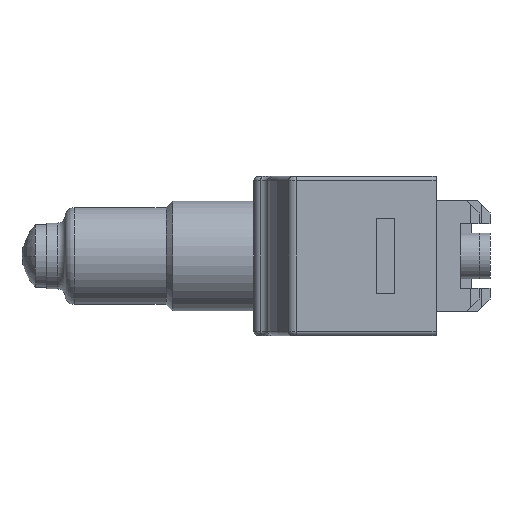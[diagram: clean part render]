
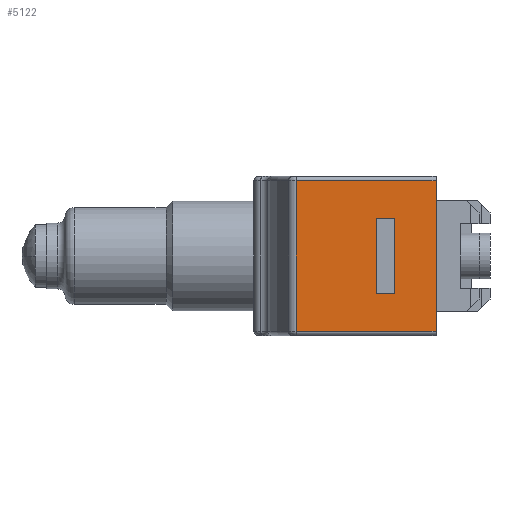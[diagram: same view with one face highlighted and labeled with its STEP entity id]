
A CAD part, left-side view. The second image highlights one B-rep face of the part: STEP entity #5122.
In plain terms, the highlighted planar face has unit normal (-1, 0, 0).
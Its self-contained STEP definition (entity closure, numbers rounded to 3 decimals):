
#4682 = VERTEX_POINT ( 'NONE', #9965 ) ;
#4807 = VERTEX_POINT ( 'NONE', #10186 ) ;
#5122 = ADVANCED_FACE ( 'NONE', ( #10802, #10801 ), #10800, .F. ) ;
#5123 = ORIENTED_EDGE ( 'NONE', *, *, #5124, .T. ) ;
#5124 = EDGE_CURVE ( 'NONE', #4807, #4682, #10798, .T. ) ;
#5130 = EDGE_LOOP ( 'NONE', ( #5123, #5146, #5145, #5161 ) ) ;
#5143 = ORIENTED_EDGE ( 'NONE', *, *, #5162, .T. ) ;
#5144 = VERTEX_POINT ( 'NONE', #10821 ) ;
#5145 = ORIENTED_EDGE ( 'NONE', *, *, #5151, .F. ) ;
#5146 = ORIENTED_EDGE ( 'NONE', *, *, #5172, .T. ) ;
#5147 = VERTEX_POINT ( 'NONE', #10820 ) ;
#5148 = EDGE_LOOP ( 'NONE', ( #5157, #5143, #5149, #5153 ) ) ;
#5149 = ORIENTED_EDGE ( 'NONE', *, *, #5150, .T. ) ;
#5150 = EDGE_CURVE ( 'NONE', #5144, #5152, #10819, .T. ) ;
#5151 = EDGE_CURVE ( 'NONE', #5147, #5166, #10815, .T. ) ;
#5152 = VERTEX_POINT ( 'NONE', #10873 ) ;
#5153 = ORIENTED_EDGE ( 'NONE', *, *, #5154, .T. ) ;
#5154 = EDGE_CURVE ( 'NONE', #5152, #5163, #10872, .T. ) ;
#5156 = EDGE_CURVE ( 'NONE', #5147, #4807, #10868, .T. ) ;
#5157 = ORIENTED_EDGE ( 'NONE', *, *, #5164, .T. ) ;
#5161 = ORIENTED_EDGE ( 'NONE', *, *, #5156, .T. ) ;
#5162 = EDGE_CURVE ( 'NONE', #5165, #5144, #10859, .T. ) ;
#5163 = VERTEX_POINT ( 'NONE', #10855 ) ;
#5164 = EDGE_CURVE ( 'NONE', #5163, #5165, #10854, .T. ) ;
#5165 = VERTEX_POINT ( 'NONE', #10850 ) ;
#5166 = VERTEX_POINT ( 'NONE', #10849 ) ;
#5172 = EDGE_CURVE ( 'NONE', #4682, #5166, #10910, .T. ) ;
#9965 = CARTESIAN_POINT ( 'NONE',  ( -35.2, 11.461, -8.2 ) ) ;
#10186 = CARTESIAN_POINT ( 'NONE',  ( -35.2, 11.461, 8.2 ) ) ;
#10792 = DIRECTION ( 'NONE',  ( 0., 0., -1. ) ) ;
#10793 = VECTOR ( 'NONE', #10792, 1000. ) ;
#10794 = CARTESIAN_POINT ( 'NONE',  ( -35.2, 11.461, 8.7 ) ) ;
#10795 = DIRECTION ( 'NONE',  ( 0., 0., -1. ) ) ;
#10796 = DIRECTION ( 'NONE',  ( 1., 0., 0. ) ) ;
#10797 = AXIS2_PLACEMENT_3D ( 'NONE', #10799, #10796, #10795 ) ;
#10798 = LINE ( 'NONE', #10794, #10793 ) ;
#10799 = CARTESIAN_POINT ( 'NONE',  ( -35.2, 11.461, 8.7 ) ) ;
#10800 = PLANE ( 'NONE',  #10797 ) ;
#10801 = FACE_BOUND ( 'NONE', #5148, .T. ) ;
#10802 = FACE_OUTER_BOUND ( 'NONE', #5130, .T. ) ;
#10814 = CARTESIAN_POINT ( 'NONE',  ( -35.2, -3.8, 8.7 ) ) ;
#10815 = LINE ( 'NONE', #10814, #10875 ) ;
#10816 = DIRECTION ( 'NONE',  ( 0., 1., 0. ) ) ;
#10817 = VECTOR ( 'NONE', #10816, 1000. ) ;
#10818 = CARTESIAN_POINT ( 'NONE',  ( -35.2, 2.7, -4.1 ) ) ;
#10819 = LINE ( 'NONE', #10818, #10817 ) ;
#10820 = CARTESIAN_POINT ( 'NONE',  ( -35.2, -3.8, 8.2 ) ) ;
#10821 = CARTESIAN_POINT ( 'NONE',  ( -35.2, 0.7, -4.1 ) ) ;
#10849 = CARTESIAN_POINT ( 'NONE',  ( -35.2, -3.8, -8.2 ) ) ;
#10850 = CARTESIAN_POINT ( 'NONE',  ( -35.2, 0.7, 4.1 ) ) ;
#10851 = DIRECTION ( 'NONE',  ( 0., -1., 0. ) ) ;
#10852 = VECTOR ( 'NONE', #10851, 1000. ) ;
#10853 = CARTESIAN_POINT ( 'NONE',  ( -35.2, 2.7, 4.1 ) ) ;
#10854 = LINE ( 'NONE', #10853, #10852 ) ;
#10855 = CARTESIAN_POINT ( 'NONE',  ( -35.2, 2.7, 4.1 ) ) ;
#10856 = DIRECTION ( 'NONE',  ( 0., 0., -1. ) ) ;
#10857 = VECTOR ( 'NONE', #10856, 1000. ) ;
#10858 = CARTESIAN_POINT ( 'NONE',  ( -35.2, 0.7, 4.1 ) ) ;
#10859 = LINE ( 'NONE', #10858, #10857 ) ;
#10865 = DIRECTION ( 'NONE',  ( 0., 1., 0. ) ) ;
#10866 = VECTOR ( 'NONE', #10865, 1000. ) ;
#10867 = CARTESIAN_POINT ( 'NONE',  ( -35.2, 11.461, 8.2 ) ) ;
#10868 = LINE ( 'NONE', #10867, #10866 ) ;
#10869 = DIRECTION ( 'NONE',  ( 0., 0., 1. ) ) ;
#10870 = VECTOR ( 'NONE', #10869, 1000. ) ;
#10871 = CARTESIAN_POINT ( 'NONE',  ( -35.2, 2.7, 4.1 ) ) ;
#10872 = LINE ( 'NONE', #10871, #10870 ) ;
#10873 = CARTESIAN_POINT ( 'NONE',  ( -35.2, 2.7, -4.1 ) ) ;
#10874 = DIRECTION ( 'NONE',  ( 0., 0., -1. ) ) ;
#10875 = VECTOR ( 'NONE', #10874, 1000. ) ;
#10907 = DIRECTION ( 'NONE',  ( 0., -1., 0. ) ) ;
#10908 = VECTOR ( 'NONE', #10907, 1000. ) ;
#10909 = CARTESIAN_POINT ( 'NONE',  ( -35.2, 11.461, -8.2 ) ) ;
#10910 = LINE ( 'NONE', #10909, #10908 ) ;
